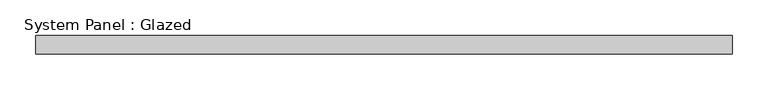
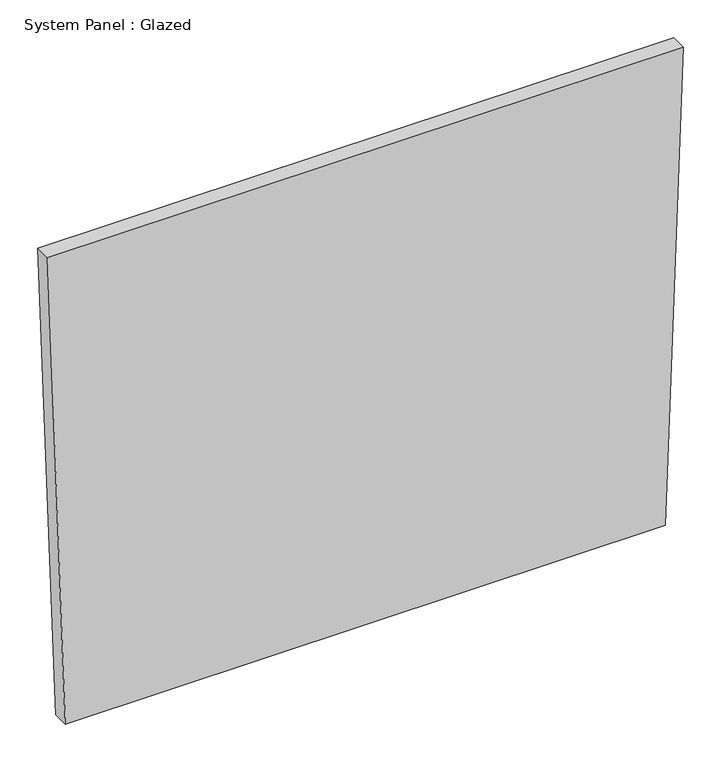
"""IFC4 building model written with IfcOpenShell, lengths in millimetres: plate geometry, System Panel : Glazed."""

from ifc_helpers import new_model, si_unit, frame, origin, place, context, project, spatial, polyline, outline, extrude, source, transform, mapped, element, save


def system_panel_glazed_74823eb2(model_context):
    return source(origin(), model_context, "Body", "SweptSolid", [
        extrude(outline(polyline([(0.0, -457.8685385), (0.0, 457.8685385), (761.5238602, 484.8019819), (761.5238602, -484.8019819), (0.0, -457.8685385)])), frame((0.0, -44.45, 0.0), z_axis=(0.0, 1.0, 0.0), x_axis=(0.0, 0.0, 1.0)), (0.0, 0.0, 1.0), 25.4),
    ])


if __name__ == "__main__":
    model = new_model("IFC4")
    model_context = context("Model", 3, world=origin())
    ifc_project = project(units=[si_unit("LENGTHUNIT", "METRE", prefix="MILLI")], contexts=[model_context])
    site = spatial("IfcSite", under=ifc_project)
    building = spatial("IfcBuilding", under=site)
    placement = place(None, origin())
    system_panel_glazed_shape = system_panel_glazed_74823eb2(model_context)
    element("IfcPlate", 1, ObjectType="System Panel : Glazed", at=placement, inside=building, context=model_context, shape_type="MappedRepresentation", body=[
        mapped(system_panel_glazed_shape, transform((0.0, 0.0, 0.0), x_axis=(1.0, 0.0, 0.0), y_axis=(0.0, 1.0, 0.0), z_axis=(0.0, 0.0, 1.0))),
    ])
    save(model, "model.ifc")
